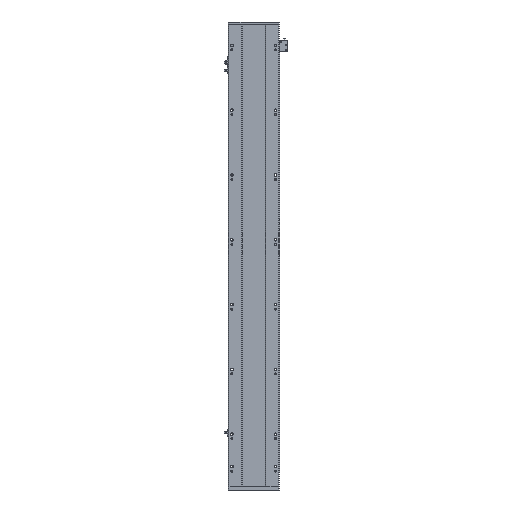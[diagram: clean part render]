
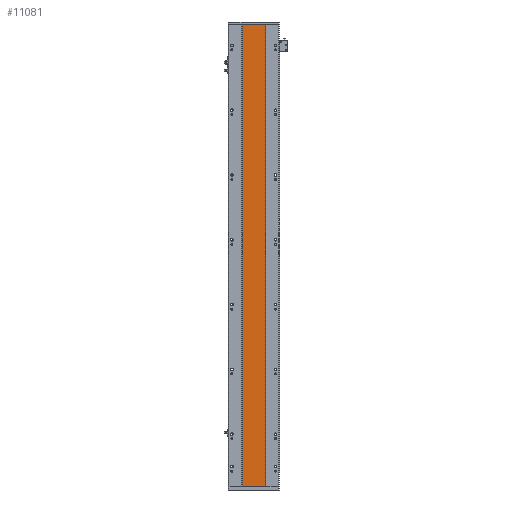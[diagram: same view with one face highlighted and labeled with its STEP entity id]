
A CAD part, front view. The second image highlights one B-rep face of the part: STEP entity #11081.
In plain terms, the highlighted planar face has unit normal (0, -1, 0).
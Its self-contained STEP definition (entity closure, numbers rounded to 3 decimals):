
#527 = CARTESIAN_POINT ( 'NONE',  ( 205.288, 16.9, 0. ) ) ;
#3395 = LINE ( 'NONE', #13515, #14391 ) ;
#3400 = EDGE_LOOP ( 'NONE', ( #7620, #18554, #22834, #34557 ) ) ;
#5429 = CARTESIAN_POINT ( 'NONE',  ( 205.288, 16.9, 0. ) ) ;
#6805 = CARTESIAN_POINT ( 'NONE',  ( 129.288, 16.9, 1540. ) ) ;
#7620 = ORIENTED_EDGE ( 'NONE', *, *, #20541, .T. ) ;
#9029 = DIRECTION ( 'NONE',  ( 0., 0., -1. ) ) ;
#11081 = ADVANCED_FACE ( 'NONE', ( #25815 ), #15577, .F. ) ;
#11160 = LINE ( 'NONE', #25824, #17795 ) ;
#11319 = CARTESIAN_POINT ( 'NONE',  ( 129.288, 16.9, 0. ) ) ;
#12949 = VECTOR ( 'NONE', #34905, 1000. ) ;
#13515 = CARTESIAN_POINT ( 'NONE',  ( 129.288, 16.9, 1540. ) ) ;
#13848 = VERTEX_POINT ( 'NONE', #527 ) ;
#14391 = VECTOR ( 'NONE', #30684, 1000. ) ;
#14971 = VECTOR ( 'NONE', #25541, 1000. ) ;
#15577 = PLANE ( 'NONE',  #32789 ) ;
#17640 = VERTEX_POINT ( 'NONE', #11319 ) ;
#17795 = VECTOR ( 'NONE', #9029, 1000. ) ;
#17883 = EDGE_CURVE ( 'NONE', #24031, #17640, #34021, .T. ) ;
#18554 = ORIENTED_EDGE ( 'NONE', *, *, #24834, .F. ) ;
#20499 = CARTESIAN_POINT ( 'NONE',  ( 129.288, 16.9, 1540. ) ) ;
#20541 = EDGE_CURVE ( 'NONE', #17640, #13848, #30293, .T. ) ;
#21322 = DIRECTION ( 'NONE',  ( -1., 0., 0. ) ) ;
#22127 = CARTESIAN_POINT ( 'NONE',  ( 205.288, 16.9, 1540. ) ) ;
#22834 = ORIENTED_EDGE ( 'NONE', *, *, #23785, .F. ) ;
#23785 = EDGE_CURVE ( 'NONE', #24031, #26434, #3395, .T. ) ;
#24031 = VERTEX_POINT ( 'NONE', #20499 ) ;
#24834 = EDGE_CURVE ( 'NONE', #26434, #13848, #11160, .T. ) ;
#25541 = DIRECTION ( 'NONE',  ( 1., 0., 0. ) ) ;
#25815 = FACE_OUTER_BOUND ( 'NONE', #3400, .T. ) ;
#25824 = CARTESIAN_POINT ( 'NONE',  ( 205.288, 16.9, 1540. ) ) ;
#26434 = VERTEX_POINT ( 'NONE', #22127 ) ;
#26720 = DIRECTION ( 'NONE',  ( 0., 1., 0. ) ) ;
#26833 = CARTESIAN_POINT ( 'NONE',  ( 205.288, 16.9, 1540. ) ) ;
#30293 = LINE ( 'NONE', #5429, #14971 ) ;
#30684 = DIRECTION ( 'NONE',  ( 1., 0., 0. ) ) ;
#32789 = AXIS2_PLACEMENT_3D ( 'NONE', #26833, #26720, #21322 ) ;
#34021 = LINE ( 'NONE', #6805, #12949 ) ;
#34557 = ORIENTED_EDGE ( 'NONE', *, *, #17883, .T. ) ;
#34905 = DIRECTION ( 'NONE',  ( 0., 0., -1. ) ) ;
